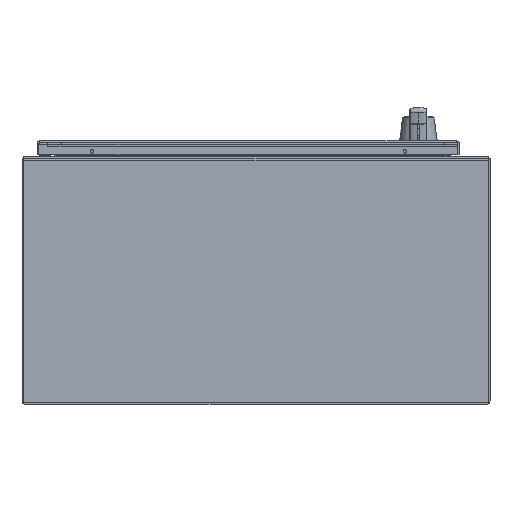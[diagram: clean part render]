
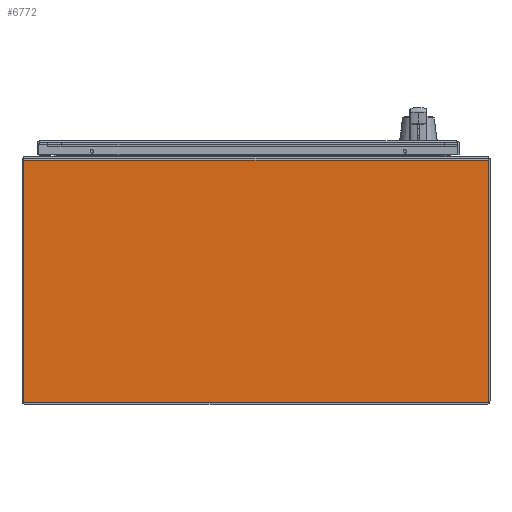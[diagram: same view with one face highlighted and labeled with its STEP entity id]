
A CAD part, front view. The second image highlights one B-rep face of the part: STEP entity #6772.
In plain terms, the highlighted planar face has unit normal (0, -1, 0).
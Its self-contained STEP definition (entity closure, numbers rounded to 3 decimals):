
#6772 = ADVANCED_FACE ( 'NONE', ( #69658 ), #88647, .T. ) ;
#16295 = DIRECTION ( 'NONE',  ( 0., 0., 1. ) ) ;
#16300 = DIRECTION ( 'NONE',  ( -1., 0., 0. ) ) ;
#16302 = CARTESIAN_POINT ( 'NONE',  ( 16.984, 0., 17.714 ) ) ;
#16304 = DIRECTION ( 'NONE',  ( 0., 0., -1. ) ) ;
#16307 = CARTESIAN_POINT ( 'NONE',  ( -16.984, 0., 17.984 ) ) ;
#16312 = CARTESIAN_POINT ( 'NONE',  ( 16.984, 0., 17.984 ) ) ;
#16318 = DIRECTION ( 'NONE',  ( -1., 0., 0. ) ) ;
#16330 = CARTESIAN_POINT ( 'NONE',  ( -16.984, 0., 0. ) ) ;
#58213 = EDGE_LOOP ( 'NONE', ( #122068, #122117, #122001, #121402 ) ) ;
#69658 = FACE_OUTER_BOUND ( 'NONE', #58213, .T. ) ;
#79000 = LINE ( 'NONE', #16330, #79038 ) ;
#79038 = VECTOR ( 'NONE', #16318, 39.37 ) ;
#79041 = LINE ( 'NONE', #16312, #79054 ) ;
#79046 = LINE ( 'NONE', #16307, #79064 ) ;
#79054 = VECTOR ( 'NONE', #16304, 39.37 ) ;
#79060 = LINE ( 'NONE', #16302, #79062 ) ;
#79062 = VECTOR ( 'NONE', #16300, 39.37 ) ;
#79064 = VECTOR ( 'NONE', #16295, 39.37 ) ;
#88643 = DIRECTION ( 'NONE',  ( 0., 0., -1. ) ) ;
#88644 = DIRECTION ( 'NONE',  ( 0., -1., 0. ) ) ;
#88647 = PLANE ( 'NONE',  #122812 ) ;
#88649 = CARTESIAN_POINT ( 'NONE',  ( -16.984, 0., 0. ) ) ;
#90018 = CARTESIAN_POINT ( 'NONE',  ( -16.984, 0., 0. ) ) ;
#91419 = CARTESIAN_POINT ( 'NONE',  ( -16.984, 0., 17.714 ) ) ;
#91906 = CARTESIAN_POINT ( 'NONE',  ( 16.984, 0., 0. ) ) ;
#92351 = CARTESIAN_POINT ( 'NONE',  ( 16.984, 0., 17.714 ) ) ;
#102838 = EDGE_CURVE ( 'NONE', #117901, #116826, #79000, .T. ) ;
#102841 = EDGE_CURVE ( 'NONE', #118244, #117901, #79041, .T. ) ;
#102842 = EDGE_CURVE ( 'NONE', #118244, #117586, #79060, .T. ) ;
#102843 = EDGE_CURVE ( 'NONE', #116826, #117586, #79046, .T. ) ;
#116826 = VERTEX_POINT ( 'NONE', #90018 ) ;
#117586 = VERTEX_POINT ( 'NONE', #91419 ) ;
#117901 = VERTEX_POINT ( 'NONE', #91906 ) ;
#118244 = VERTEX_POINT ( 'NONE', #92351 ) ;
#121402 = ORIENTED_EDGE ( 'NONE', *, *, #102838, .F. ) ;
#122001 = ORIENTED_EDGE ( 'NONE', *, *, #102843, .F. ) ;
#122068 = ORIENTED_EDGE ( 'NONE', *, *, #102841, .F. ) ;
#122117 = ORIENTED_EDGE ( 'NONE', *, *, #102842, .T. ) ;
#122812 = AXIS2_PLACEMENT_3D ( 'NONE', #88649, #88644, #88643 ) ;
